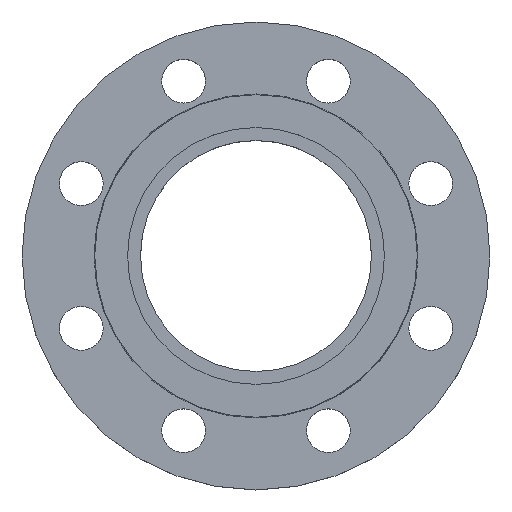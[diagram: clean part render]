
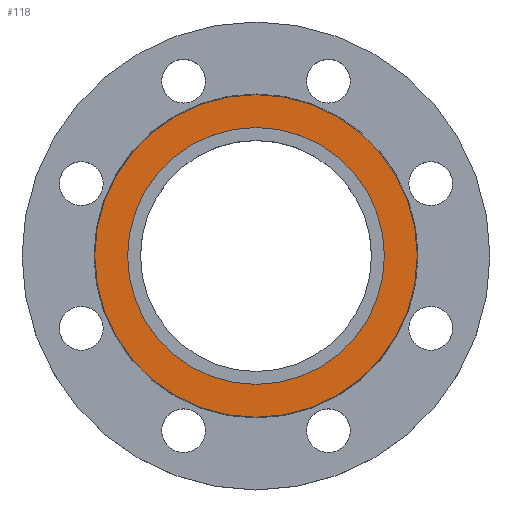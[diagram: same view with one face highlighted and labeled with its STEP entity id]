
A CAD part, top view. The second image highlights one B-rep face of the part: STEP entity #118.
In plain terms, the highlighted planar face has unit normal (0, 0, 1).
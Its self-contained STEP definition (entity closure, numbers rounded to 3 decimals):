
#9 = CIRCLE ( 'NONE', #22, 64.5 ) ;
#18 = EDGE_CURVE ( 'NONE', #880, #892, #9, .T. ) ;
#22 = AXIS2_PLACEMENT_3D ( 'NONE', #710, #711, #712 ) ;
#32 = CARTESIAN_POINT ( 'NONE',  ( -81., 0., 0. ) ) ;
#40 = AXIS2_PLACEMENT_3D ( 'NONE', #728, #729, #730 ) ;
#118 = ADVANCED_FACE ( 'NONE', ( #725, #726 ), #727, .T. ) ;
#131 = CARTESIAN_POINT ( 'NONE',  ( -64.5, 0., 0. ) ) ;
#140 = CARTESIAN_POINT ( 'NONE',  ( 81., 0., 0. ) ) ;
#149 = CARTESIAN_POINT ( 'NONE',  ( 64.5, 0., 0. ) ) ;
#158 = CIRCLE ( 'NONE', #163, 81. ) ;
#163 = AXIS2_PLACEMENT_3D ( 'NONE', #574, #784, #573 ) ;
#321 = DIRECTION ( 'NONE',  ( -1., 0., 0. ) ) ;
#322 = DIRECTION ( 'NONE',  ( 0., 0., -1. ) ) ;
#323 = CARTESIAN_POINT ( 'NONE',  ( 0., 0., 0. ) ) ;
#350 = CIRCLE ( 'NONE', #363, 81. ) ;
#363 = AXIS2_PLACEMENT_3D ( 'NONE', #417, #416, #414 ) ;
#414 = DIRECTION ( 'NONE',  ( -1., 0., 0. ) ) ;
#416 = DIRECTION ( 'NONE',  ( 0., 0., -1. ) ) ;
#417 = CARTESIAN_POINT ( 'NONE',  ( 0., 0., 0. ) ) ;
#466 = CIRCLE ( 'NONE', #1074, 64.5 ) ;
#542 = EDGE_CURVE ( 'NONE', #886, #1073, #158, .T. ) ;
#573 = DIRECTION ( 'NONE',  ( -1., 0., 0. ) ) ;
#574 = CARTESIAN_POINT ( 'NONE',  ( 0., 0., 0. ) ) ;
#661 = EDGE_LOOP ( 'NONE', ( #1017, #1018 ) ) ;
#674 = EDGE_LOOP ( 'NONE', ( #1012, #1013 ) ) ;
#708 = EDGE_CURVE ( 'NONE', #1073, #886, #350, .T. ) ;
#710 = CARTESIAN_POINT ( 'NONE',  ( 0., 0., 0. ) ) ;
#711 = DIRECTION ( 'NONE',  ( 0., 0., -1. ) ) ;
#712 = DIRECTION ( 'NONE',  ( -1., 0., 0. ) ) ;
#725 = FACE_OUTER_BOUND ( 'NONE', #674, .T. ) ;
#726 = FACE_BOUND ( 'NONE', #661, .T. ) ;
#727 = PLANE ( 'NONE',  #40 ) ;
#728 = CARTESIAN_POINT ( 'NONE',  ( 0., 0., 0. ) ) ;
#729 = DIRECTION ( 'NONE',  ( 0., 0., 1. ) ) ;
#730 = DIRECTION ( 'NONE',  ( 1., 0., 0. ) ) ;
#784 = DIRECTION ( 'NONE',  ( 0., 0., -1. ) ) ;
#818 = EDGE_CURVE ( 'NONE', #892, #880, #466, .T. ) ;
#880 = VERTEX_POINT ( 'NONE', #149 ) ;
#886 = VERTEX_POINT ( 'NONE', #140 ) ;
#892 = VERTEX_POINT ( 'NONE', #131 ) ;
#1012 = ORIENTED_EDGE ( 'NONE', *, *, #708, .F. ) ;
#1013 = ORIENTED_EDGE ( 'NONE', *, *, #542, .F. ) ;
#1017 = ORIENTED_EDGE ( 'NONE', *, *, #818, .T. ) ;
#1018 = ORIENTED_EDGE ( 'NONE', *, *, #18, .T. ) ;
#1073 = VERTEX_POINT ( 'NONE', #32 ) ;
#1074 = AXIS2_PLACEMENT_3D ( 'NONE', #323, #322, #321 ) ;
